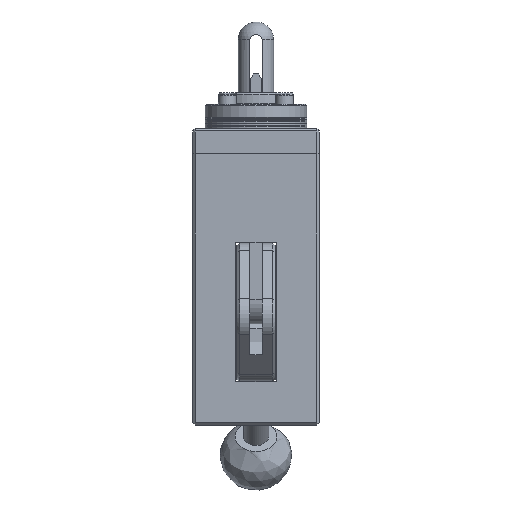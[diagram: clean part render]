
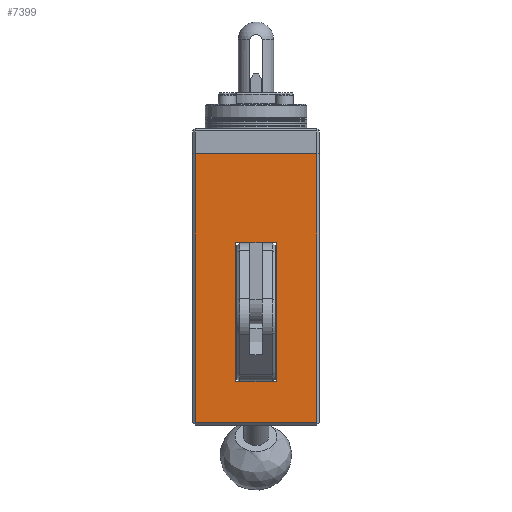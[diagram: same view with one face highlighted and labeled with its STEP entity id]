
A CAD part, left-side view. The second image highlights one B-rep face of the part: STEP entity #7399.
In plain terms, the highlighted planar face has unit normal (-1, 0, 0).
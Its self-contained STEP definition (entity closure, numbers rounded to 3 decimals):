
#260=FACE_BOUND('',#1206,.T.);
#468=PLANE('',#8149);
#748=FACE_OUTER_BOUND('',#1205,.T.);
#1205=EDGE_LOOP('',(#5589,#5590,#5591,#5592));
#1206=EDGE_LOOP('',(#5593,#5594,#5595,#5596));
#1623=LINE('',#11394,#2165);
#1630=LINE('',#11424,#2172);
#1656=LINE('',#11503,#2198);
#1659=LINE('',#11509,#2201);
#1701=LINE('',#11723,#2243);
#1709=LINE('',#11745,#2251);
#1721=LINE('',#11785,#2263);
#1722=LINE('',#11787,#2264);
#2165=VECTOR('',#9063,10.);
#2172=VECTOR('',#9092,10.);
#2198=VECTOR('',#9168,10.);
#2201=VECTOR('',#9173,10.);
#2243=VECTOR('',#9405,10.);
#2251=VECTOR('',#9427,10.);
#2263=VECTOR('',#9471,10.);
#2264=VECTOR('',#9474,10.);
#3198=VERTEX_POINT('',#11391);
#3199=VERTEX_POINT('',#11393);
#3210=VERTEX_POINT('',#11421);
#3211=VERTEX_POINT('',#11423);
#3239=VERTEX_POINT('',#11501);
#3241=VERTEX_POINT('',#11507);
#3318=VERTEX_POINT('',#11722);
#3325=VERTEX_POINT('',#11744);
#4003=EDGE_CURVE('',#3199,#3198,#1623,.T.);
#4017=EDGE_CURVE('',#3210,#3211,#1630,.T.);
#4054=EDGE_CURVE('',#3239,#3210,#1656,.T.);
#4057=EDGE_CURVE('',#3241,#3239,#1659,.T.);
#4160=EDGE_CURVE('',#3318,#3199,#1701,.T.);
#4170=EDGE_CURVE('',#3325,#3318,#1709,.T.);
#4188=EDGE_CURVE('',#3198,#3325,#1721,.T.);
#4189=EDGE_CURVE('',#3211,#3241,#1722,.T.);
#5589=ORIENTED_EDGE('',*,*,#4054,.F.);
#5590=ORIENTED_EDGE('',*,*,#4057,.F.);
#5591=ORIENTED_EDGE('',*,*,#4189,.F.);
#5592=ORIENTED_EDGE('',*,*,#4017,.F.);
#5593=ORIENTED_EDGE('',*,*,#4160,.T.);
#5594=ORIENTED_EDGE('',*,*,#4003,.T.);
#5595=ORIENTED_EDGE('',*,*,#4188,.T.);
#5596=ORIENTED_EDGE('',*,*,#4170,.T.);
#7399=ADVANCED_FACE('',(#748,#260),#468,.T.);
#8149=AXIS2_PLACEMENT_3D('',#11786,#9472,#9473);
#9063=DIRECTION('',(0.,0.,1.));
#9092=DIRECTION('',(0.,0.,1.));
#9168=DIRECTION('',(0.,1.,0.));
#9173=DIRECTION('',(0.,0.,-1.));
#9405=DIRECTION('',(0.,1.,0.));
#9427=DIRECTION('',(0.,0.,-1.));
#9471=DIRECTION('',(0.,-1.,0.));
#9472=DIRECTION('center_axis',(-1.,0.,0.));
#9473=DIRECTION('ref_axis',(0.,-1.,0.));
#9474=DIRECTION('',(0.,-1.,0.));
#11391=CARTESIAN_POINT('',(-36.509,7.434,18.5));
#11393=CARTESIAN_POINT('',(-36.509,7.434,-36.5));
#11394=CARTESIAN_POINT('',(-36.509,7.434,-45.));
#11421=CARTESIAN_POINT('',(-36.509,23.434,-52.5));
#11423=CARTESIAN_POINT('',(-36.509,23.434,53.5));
#11424=CARTESIAN_POINT('',(-36.509,23.434,-53.5));
#11501=CARTESIAN_POINT('',(-36.509,-24.566,-52.5));
#11503=CARTESIAN_POINT('',(-36.509,-6.816,-52.5));
#11507=CARTESIAN_POINT('',(-36.509,-24.566,53.5));
#11509=CARTESIAN_POINT('',(-36.509,-24.566,-53.5));
#11722=CARTESIAN_POINT('',(-36.509,-8.566,-36.5));
#11723=CARTESIAN_POINT('',(-36.509,-0.566,-36.5));
#11744=CARTESIAN_POINT('',(-36.509,-8.566,18.5));
#11745=CARTESIAN_POINT('',(-36.509,-8.566,-45.));
#11785=CARTESIAN_POINT('',(-36.509,-4.566,18.5));
#11786=CARTESIAN_POINT('Origin',(-36.509,-0.566,-53.5));
#11787=CARTESIAN_POINT('',(-36.509,-0.566,53.5));
